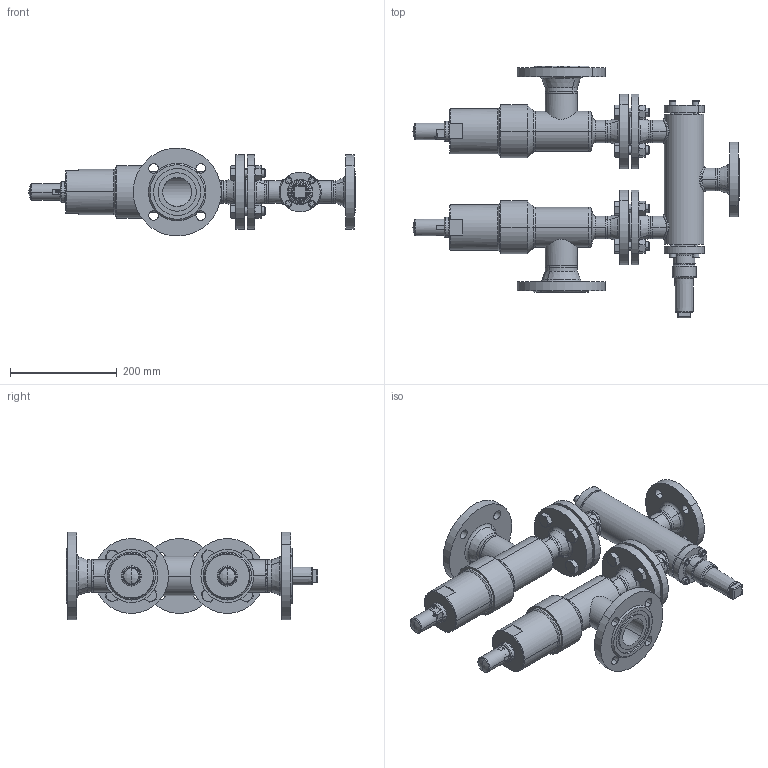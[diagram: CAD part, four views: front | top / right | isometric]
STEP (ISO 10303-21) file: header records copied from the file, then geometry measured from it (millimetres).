
FILE_DESCRIPTION (( 'STEP AP214' ), '1' );
FILE_NAME ('WVR-SVAA_1A7FL_DN32_DIN-FL.STEP', '2010-09-08T13:21:24', ( 'Eckhard Grams' ), ( 'AWP Kälte Klima Armaturen GmbH' ), 'SwSTEP 2.0', 'SolidWorks 2002296', '' );
FILE_SCHEMA (( 'AUTOMOTIVE_DESIGN' ));
Length unit declared in the file: millimetre
Products named in the file (30): WVR-SVAA_1A7FL_DN32_DIN-FL; WVR24020D13-DN032_DIN-FL-N-F_PS40_Standard; AVR26300E13_Deck+Schr-DN25-32_Standard; Deckel26300E13-DN25-32_Standard; Geh,kpl24020E13-DN32_DIN-FL-N-F_PS40_Standard; Flansch-DIN2635-Feder_PS40_DIN-Flansch-DN032_PS40-Feder; Geh,kpl24000E13_DN32_R1_PS40_Standard; Rohrstutzen-24000E13-DN32_R1_Standard; Gehäuse24000E13-DN32_R1_PS40_Standard; Schw-24000E13-DN32_Standard; beadC4020-13-3_Standard; beadC4020-13-2_Standard; beadC4020-13-1_Standard; Kappe 16402-13_DN10-32 (M36x2)_Standard; WVB-R23000E13_Deck+Schr-DN25-32_Standard; Deckel23000E13-DN25-32_Standard; Zylinderschraube-DIN912_M 8x  25; SVAA 45620D13-DN32(50)_DIN; Gehkpl 45720E13-5030001; Flansch-DIN2635-Nut_PS40_DIN-Flansch-DN050_PS40-Nut; Rohrstutzen-A 45700E13-5036004_DN32(50)_Standard; Geh 45700E13-5034004_DN32; Flansch-DIN2635-Nut_PS40_DIN-Flansch-DN032_PS40-Nut; bead Geh,kpl 45720E13-1_Standard; bead Geh,kpl 45720E13-2_Standard; Flachdichtg-Alu-DN32; Haube 45700E13-5260003_DN32; Kappe SVA-SVU-ORV_DN10-40 (M27x1,5)_Standard; Sechskantschraube-DIN933_M16x 55; Sechskantmutter-DIN934_M16
Assembly tree (57 placements, depth 5):
  WVR-SVAA_1A7FL_DN32_DIN-FL
    Sechskantschraube-DIN933_M16x 55  x8
    Sechskantmutter-DIN934_M16  x8
    SVAA 45620D13-DN32(50)_DIN  x2
      Haube 45700E13-5260003_DN32
      Flachdichtg-Alu-DN32
      Gehkpl 45720E13-5030001
        Flansch-DIN2635-Nut_PS40_DIN-Flansch-DN050_PS40-Nut
        Flansch-DIN2635-Nut_PS40_DIN-Flansch-DN032_PS40-Nut
        bead Geh,kpl 45720E13-1_Standard
        bead Geh,kpl 45720E13-2_Standard
        Rohrstutzen-A 45700E13-5036004_DN32(50)_Standard
        Geh 45700E13-5034004_DN32
      Kappe SVA-SVU-ORV_DN10-40 (M27x1,5)_Standard
    WVR24020D13-DN032_DIN-FL-N-F_PS40_Standard
      WVB-R23000E13_Deck+Schr-DN25-32_Standard
        Zylinderschraube-DIN912_M 8x  25  x4
        Deckel23000E13-DN25-32_Standard
      Geh,kpl24020E13-DN32_DIN-FL-N-F_PS40_Standard
        Geh,kpl24000E13_DN32_R1_PS40_Standard
          Rohrstutzen-24000E13-DN32_R1_Standard  x3
          Gehäuse24000E13-DN32_R1_PS40_Standard
          Schw-24000E13-DN32_Standard  x3
        beadC4020-13-2_Standard
        Flansch-DIN2635-Nut_PS40_DIN-Flansch-DN032_PS40-Nut
        beadC4020-13-1_Standard
        Flansch-DIN2635-Feder_PS40_DIN-Flansch-DN032_PS40-Feder  x2
        beadC4020-13-3_Standard
      AVR26300E13_Deck+Schr-DN25-32_Standard
        Zylinderschraube-DIN912_M 8x  25  x4
        Deckel26300E13-DN25-32_Standard
      Kappe 16402-13_DN10-32 (M36x2)_Standard
Bounding box: 611.5 x 471.5 x 164.37 mm (x, y, z)
Volume: 4322540.3 mm3; surface area: 1016501.1 mm2
Topology: 58 solids, 58 shells, 1415 faces, 3241 edges, 1991 vertices
Faces by surface type: cylinder 500, cone 379, plane 379, torus 95, bspline 54, sphere 8
Entity records: 43037 total; most frequent: CARTESIAN_POINT 27078, DIRECTION 2935, ORIENTED_EDGE 2770, EDGE_CURVE 1385, AXIS2_PLACEMENT_3D 1251, VERTEX_POINT 862, EDGE_LOOP 695, CIRCLE 632
